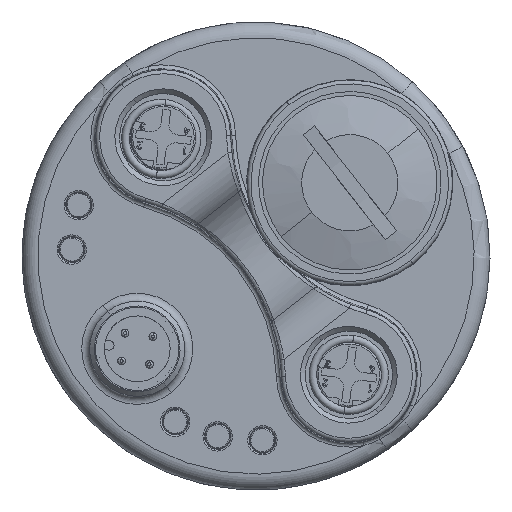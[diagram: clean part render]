
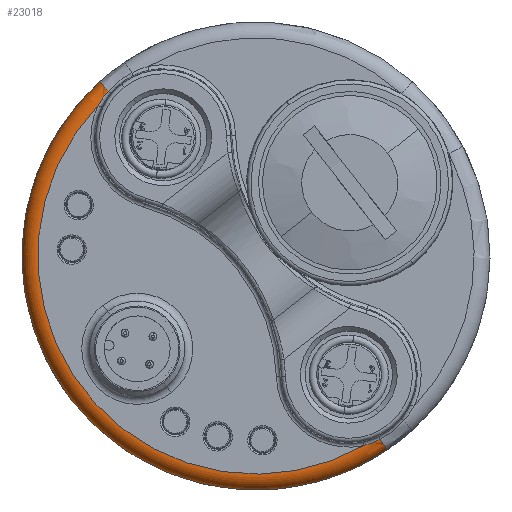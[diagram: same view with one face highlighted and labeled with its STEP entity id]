
A CAD part, left-side view. The second image highlights one B-rep face of the part: STEP entity #23018.
In plain terms, the highlighted toroidal (fillet/blend) face has major radius 27.5 mm and minor radius 2 mm.
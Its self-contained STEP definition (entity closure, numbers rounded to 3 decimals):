
#2944 = TOROIDAL_SURFACE ( 'NONE', #14607, 27.5, 2. ) ;
#4279 = ORIENTED_EDGE ( 'NONE', *, *, #36999, .F. ) ;
#4367 = ORIENTED_EDGE ( 'NONE', *, *, #89002, .F. ) ;
#5750 = DIRECTION ( 'NONE',  ( -1., 0., 0. ) ) ;
#6067 = DIRECTION ( 'NONE',  ( 0., 0.616, 0.788 ) ) ;
#10518 = ORIENTED_EDGE ( 'NONE', *, *, #71707, .T. ) ;
#12692 = CIRCLE ( 'NONE', #19495, 27.5 ) ;
#12909 = CARTESIAN_POINT ( 'NONE',  ( -40.5, -14.31, -23.707 ) ) ;
#14607 = AXIS2_PLACEMENT_3D ( 'NONE', #27382, #5750, #6067 ) ;
#14630 = CARTESIAN_POINT ( 'NONE',  ( -38.5, -16.548, -24.422 ) ) ;
#15494 = AXIS2_PLACEMENT_3D ( 'NONE', #31480, #81701, #38757 ) ;
#19495 = AXIS2_PLACEMENT_3D ( 'NONE', #37507, #87705, #44701 ) ;
#20438 = CARTESIAN_POINT ( 'NONE',  ( -40.5, 19.904, 18.976 ) ) ;
#23018 = ADVANCED_FACE ( 'NONE', ( #62466 ), #2944, .T. ) ;
#27382 = CARTESIAN_POINT ( 'NONE',  ( -38.5, 0., 0. ) ) ;
#27620 = CARTESIAN_POINT ( 'NONE',  ( -40.477, 19.114, 20.219 ) ) ;
#28076 = CARTESIAN_POINT ( 'NONE',  ( -40.5, -13.597, -23.903 ) ) ;
#31480 = CARTESIAN_POINT ( 'NONE',  ( -38.5, 18.358, 20.475 ) ) ;
#36999 = EDGE_CURVE ( 'NONE', #85967, #57248, #87632, .T. ) ;
#37507 = CARTESIAN_POINT ( 'NONE',  ( -40.5, 0., 0. ) ) ;
#38412 = DIRECTION ( 'NONE',  ( 0., 0.828, -0.561 ) ) ;
#38757 = DIRECTION ( 'NONE',  ( 0., 0.668, 0.745 ) ) ;
#41705 = CARTESIAN_POINT ( 'NONE',  ( -38.5, 0., 0. ) ) ;
#41838 = CARTESIAN_POINT ( 'NONE',  ( -40.5, -13.597, -23.903 ) ) ;
#43313 = EDGE_CURVE ( 'NONE', #90142, #57248, #91686, .T. ) ;
#43416 = CARTESIAN_POINT ( 'NONE',  ( -40.5, 19.904, 18.976 ) ) ;
#44701 = DIRECTION ( 'NONE',  ( 0., 0.616, 0.788 ) ) ;
#47282 = VERTEX_POINT ( 'NONE', #14630 ) ;
#48849 = DIRECTION ( 'NONE',  ( 0., 0.616, 0.788 ) ) ;
#49406 = CARTESIAN_POINT ( 'NONE',  ( -40.46, -15.649, -23.095 ) ) ;
#49746 = CIRCLE ( 'NONE', #70164, 2. ) ;
#50521 = ORIENTED_EDGE ( 'NONE', *, *, #89877, .T. ) ;
#51155 = CARTESIAN_POINT ( 'NONE',  ( -40.46, 18.623, 20.772 ) ) ;
#54028 = ORIENTED_EDGE ( 'NONE', *, *, #76211, .F. ) ;
#54824 = ORIENTED_EDGE ( 'NONE', *, *, #43313, .T. ) ;
#57248 = VERTEX_POINT ( 'NONE', #51155 ) ;
#59325 = B_SPLINE_CURVE_WITH_KNOTS ( 'NONE', 3,
 ( #84816, #84499, #12909, #41838 ),
 .UNSPECIFIED., .F., .F.,
 ( 4, 4 ),
 ( 0., 0.002 ),
 .UNSPECIFIED. ) ;
#62466 = FACE_OUTER_BOUND ( 'NONE', #81707, .T. ) ;
#69985 = CARTESIAN_POINT ( 'NONE',  ( -40.5, 19.541, 19.62 ) ) ;
#70058 = CARTESIAN_POINT ( 'NONE',  ( -38.5, 19.693, 21.965 ) ) ;
#70164 = AXIS2_PLACEMENT_3D ( 'NONE', #81331, #38412, #88572 ) ;
#71707 = EDGE_CURVE ( 'NONE', #83352, #76019, #59325, .T. ) ;
#76019 = VERTEX_POINT ( 'NONE', #28076 ) ;
#76211 = EDGE_CURVE ( 'NONE', #90142, #76019, #12692, .T. ) ;
#76848 = CIRCLE ( 'NONE', #82161, 29.5 ) ;
#77858 = CARTESIAN_POINT ( 'NONE',  ( -40.46, 18.623, 20.772 ) ) ;
#81331 = CARTESIAN_POINT ( 'NONE',  ( -38.5, -15.426, -22.766 ) ) ;
#81701 = DIRECTION ( 'NONE',  ( 0., -0.745, 0.668 ) ) ;
#81707 = EDGE_LOOP ( 'NONE', ( #4279, #4367, #50521, #10518, #54028, #54824 ) ) ;
#82161 = AXIS2_PLACEMENT_3D ( 'NONE', #41705, #91882, #48849 ) ;
#83352 = VERTEX_POINT ( 'NONE', #49406 ) ;
#84499 = CARTESIAN_POINT ( 'NONE',  ( -40.477, -14.994, -23.438 ) ) ;
#84816 = CARTESIAN_POINT ( 'NONE',  ( -40.46, -15.649, -23.095 ) ) ;
#85967 = VERTEX_POINT ( 'NONE', #70058 ) ;
#87632 = CIRCLE ( 'NONE', #15494, 2. ) ;
#87705 = DIRECTION ( 'NONE',  ( -1., 0., 0. ) ) ;
#88572 = DIRECTION ( 'NONE',  ( 0., -0.561, -0.828 ) ) ;
#89002 = EDGE_CURVE ( 'NONE', #47282, #85967, #76848, .T. ) ;
#89877 = EDGE_CURVE ( 'NONE', #47282, #83352, #49746, .T. ) ;
#90142 = VERTEX_POINT ( 'NONE', #43416 ) ;
#91686 = B_SPLINE_CURVE_WITH_KNOTS ( 'NONE', 3,
 ( #20438, #69985, #27620, #77858 ),
 .UNSPECIFIED., .F., .F.,
 ( 4, 4 ),
 ( 0., 0.002 ),
 .UNSPECIFIED. ) ;
#91882 = DIRECTION ( 'NONE',  ( 1., 0., 0. ) ) ;
